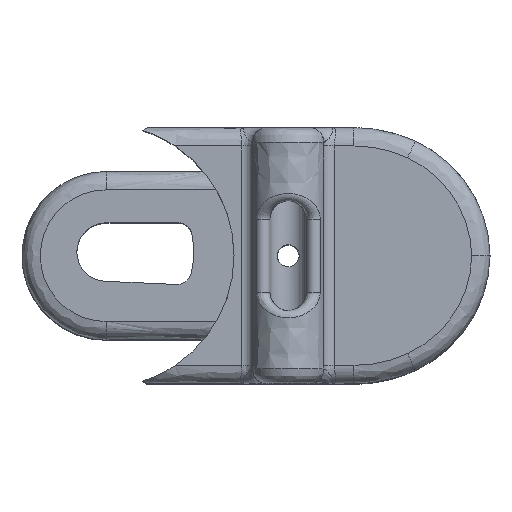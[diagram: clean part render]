
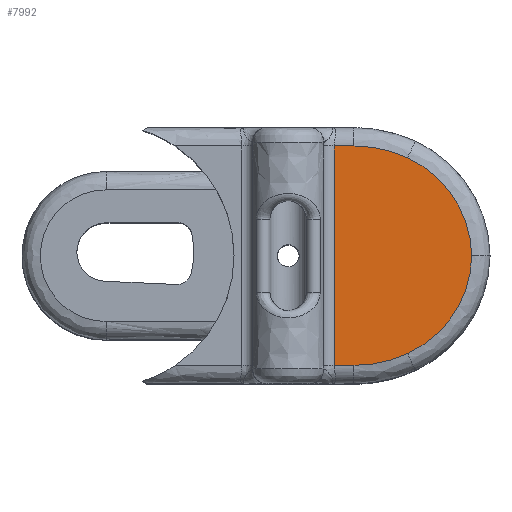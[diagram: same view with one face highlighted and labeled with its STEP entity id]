
A CAD part, top view. The second image highlights one B-rep face of the part: STEP entity #7992.
In plain terms, the highlighted free-form (B-spline) face has degree [1, 1] with [2, 2] control points.
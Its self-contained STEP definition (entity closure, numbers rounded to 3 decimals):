
#6698=CARTESIAN_POINT('',(13.725,-15.,50.));
#6699=VERTEX_POINT('',#6698);
#6707=CARTESIAN_POINT('',(13.725,15.,50.));
#6708=VERTEX_POINT('',#6707);
#6709=CARTESIAN_POINT('',(13.725,15.,50.));
#6710=DIRECTION('',(0.0,-1.0,0.0));
#6711=VECTOR('',#6710,30.);
#6712=LINE('',#6709,#6711);
#6713=EDGE_CURVE('',#6708,#6699,#6712,.T.);
#7125=CARTESIAN_POINT('',(16.4,15.0,50.));
#7126=VERTEX_POINT('',#7125);
#7127=CARTESIAN_POINT('',(16.4,15.0,50.));
#7128=DIRECTION('',(-1.0,0.0,0.0));
#7129=VECTOR('',#7128,2.675);
#7130=LINE('',#7127,#7129);
#7131=EDGE_CURVE('',#7126,#6708,#7130,.T.);
#7718=CARTESIAN_POINT('',(16.4,-15.,50.));
#7719=VERTEX_POINT('',#7718);
#7728=CARTESIAN_POINT('',(23.738,-13.387,50.));
#7729=VERTEX_POINT('',#7728);
#7745=CARTESIAN_POINT('',(16.4,2.5,50.));
#7746=DIRECTION('',(0.,0.,1.));
#7747=DIRECTION('',(0.215,-0.977,0.));
#7748=AXIS2_PLACEMENT_3D('',#7745,#7746,#7747);
#7749=CIRCLE('',#7748,17.5);
#7750=EDGE_CURVE('',#7719,#7729,#7749,.T.);
#7784=CARTESIAN_POINT('',(32.5,0.,50.));
#7785=VERTEX_POINT('',#7784);
#7786=CARTESIAN_POINT('',(17.502,0.255,50.));
#7787=DIRECTION('',(0.,0.,1.0));
#7788=DIRECTION('',(0.837,-0.546,0.));
#7789=AXIS2_PLACEMENT_3D('',#7786,#7787,#7788);
#7790=CIRCLE('',#7789,15.);
#7791=EDGE_CURVE('',#7729,#7785,#7790,.T.);
#7850=CARTESIAN_POINT('',(23.738,13.387,50.));
#7851=VERTEX_POINT('',#7850);
#7852=CARTESIAN_POINT('',(17.502,-0.255,50.));
#7853=DIRECTION('',(0.,0.,1.0));
#7854=DIRECTION('',(0.837,0.546,0.));
#7855=AXIS2_PLACEMENT_3D('',#7852,#7853,#7854);
#7856=CIRCLE('',#7855,15.);
#7857=EDGE_CURVE('',#7785,#7851,#7856,.T.);
#7921=CARTESIAN_POINT('',(13.725,-15.,50.));
#7922=DIRECTION('',(1.0,0.0,0.0));
#7923=VECTOR('',#7922,2.675);
#7924=LINE('',#7921,#7923);
#7925=EDGE_CURVE('',#6699,#7719,#7924,.T.);
#7960=CARTESIAN_POINT('',(16.4,-2.5,50.));
#7961=DIRECTION('',(0.,0.,1.0));
#7962=DIRECTION('',(0.215,0.977,0.));
#7963=AXIS2_PLACEMENT_3D('',#7960,#7961,#7962);
#7964=CIRCLE('',#7963,17.5);
#7965=EDGE_CURVE('',#7851,#7126,#7964,.T.);
#7978=CARTESIAN_POINT('',(13.725,15.0,50.));
#7979=CARTESIAN_POINT('',(32.5,15.0,50.));
#7980=CARTESIAN_POINT('',(13.725,-15.0,50.));
#7981=CARTESIAN_POINT('',(32.5,-15.0,50.));
#7982=B_SPLINE_SURFACE_WITH_KNOTS('',1,1,((#7978,#7980),(#7979,#7981)),.UNSPECIFIED.,.F.,.F.,.U.,(2,2),(2,2),(0.0,18.775),(0.0,30.0),.UNSPECIFIED.);
#7983=ORIENTED_EDGE('',*,*,#6713,.T.);
#7984=ORIENTED_EDGE('',*,*,#7925,.T.);
#7985=ORIENTED_EDGE('',*,*,#7750,.T.);
#7986=ORIENTED_EDGE('',*,*,#7791,.T.);
#7987=ORIENTED_EDGE('',*,*,#7857,.T.);
#7988=ORIENTED_EDGE('',*,*,#7965,.T.);
#7989=ORIENTED_EDGE('',*,*,#7131,.T.);
#7990=EDGE_LOOP('',(#7983,#7984,#7985,#7986,#7987,#7988,#7989));
#7991=FACE_OUTER_BOUND('',#7990,.T.);
#7992=ADVANCED_FACE('',(#7991),#7982,.F.);
